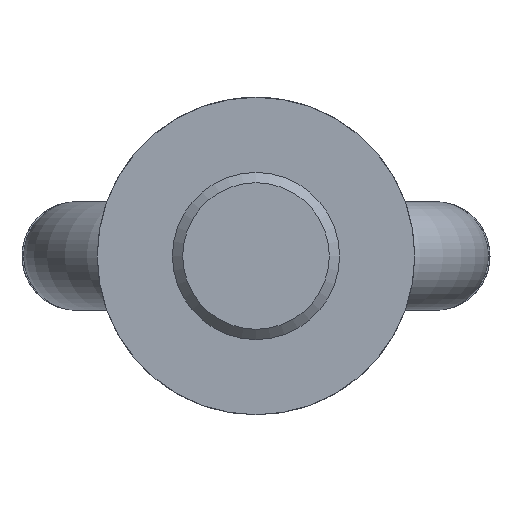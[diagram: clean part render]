
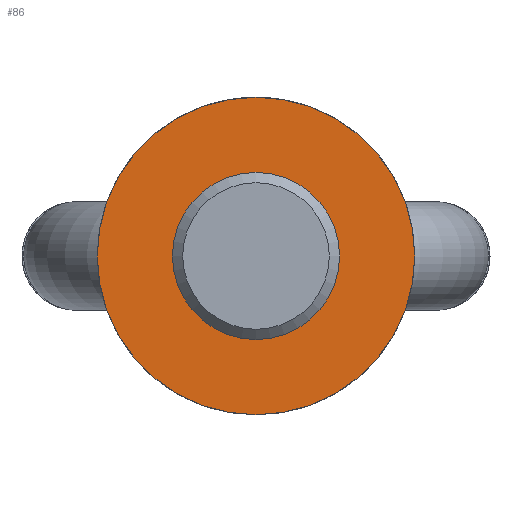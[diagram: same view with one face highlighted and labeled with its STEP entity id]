
A CAD part, front view. The second image highlights one B-rep face of the part: STEP entity #86.
In plain terms, the highlighted planar face has unit normal (0, -1, 0).
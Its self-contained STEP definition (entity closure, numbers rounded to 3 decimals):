
#86 = ADVANCED_FACE( '', ( #132, #133 ), #134, .F. );
#132 = FACE_BOUND( '', #200, .T. );
#133 = FACE_OUTER_BOUND( '', #201, .T. );
#134 = PLANE( '', #202 );
#200 = EDGE_LOOP( '', ( #307 ) );
#201 = EDGE_LOOP( '', ( #308 ) );
#202 = AXIS2_PLACEMENT_3D( '', #309, #310, #311 );
#307 = ORIENTED_EDGE( '', *, *, #427, .T. );
#308 = ORIENTED_EDGE( '', *, *, #441, .T. );
#309 = CARTESIAN_POINT( '', ( 19., 0., 0. ) );
#310 = DIRECTION( '', ( 0., 1., 0. ) );
#311 = DIRECTION( '', ( 0., 0., 1. ) );
#427 = EDGE_CURVE( '', #487, #487, #488, .T. );
#441 = EDGE_CURVE( '', #512, #512, #513, .T. );
#487 = VERTEX_POINT( '', #773 );
#488 = CIRCLE( '', #774, 10. );
#512 = VERTEX_POINT( '', #812 );
#513 = CIRCLE( '', #813, 19. );
#773 = CARTESIAN_POINT( '', ( 0., 0., 10. ) );
#774 = AXIS2_PLACEMENT_3D( '', #1001, #1002, #1003 );
#812 = CARTESIAN_POINT( '', ( 0., 0., -19. ) );
#813 = AXIS2_PLACEMENT_3D( '', #1024, #1025, #1026 );
#1001 = CARTESIAN_POINT( '', ( 0., 0., 0. ) );
#1002 = DIRECTION( '', ( 0., 1., 0. ) );
#1003 = DIRECTION( '', ( 0., 0., 1. ) );
#1024 = CARTESIAN_POINT( '', ( 0., 0., 0. ) );
#1025 = DIRECTION( '', ( 0., -1., 0. ) );
#1026 = DIRECTION( '', ( 0., 0., -1. ) );
